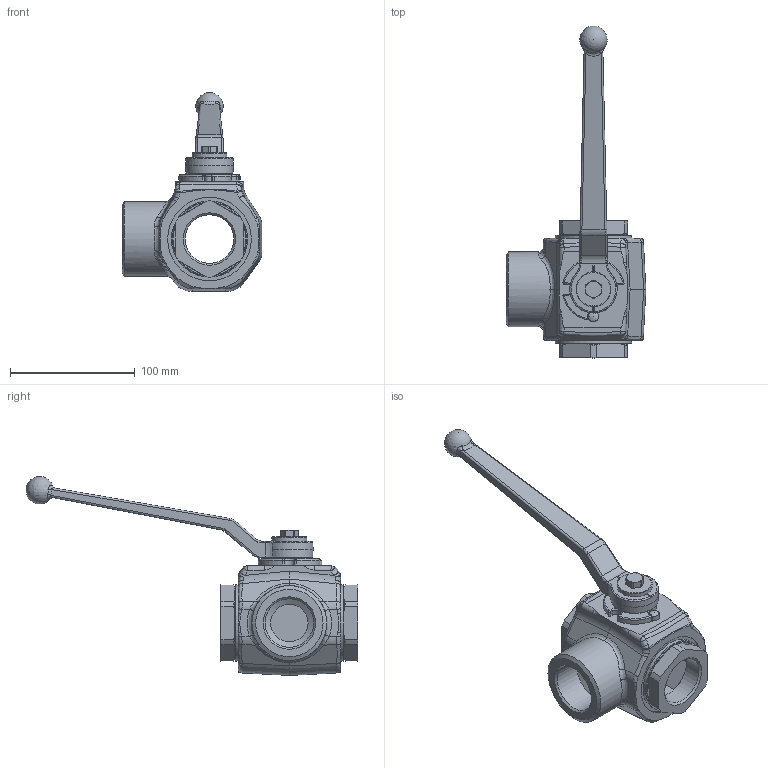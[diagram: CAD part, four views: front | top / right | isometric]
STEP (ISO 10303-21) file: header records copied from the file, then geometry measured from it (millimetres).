
FILE_DESCRIPTION( ( 'Unknown' ), '1' );
FILE_NAME( 'H:/PISTER/3D-MODELLE/SK3 stp/SK3 DN32 G5_4.stp', 'Unknown', ( 'Unknown' ), ( 'Unknown' ), 'PSStep 14.0', 'Unknown', ' ' );
FILE_SCHEMA( ( 'AUTOMOTIVE_DESIGN { 1 0 10303 214 1 1 1 1 }' ) );
Length unit declared in the file: millimetre
Products named in the file (10): Assem1; 56-032-048-oa9; 58-28740-01; 58-0440-003; 58-0933-163; 09-17-001; 04-032-124-oa10; 04-032-124-oa11; Griff_SW17_; 01-032-100-oa12
Assembly tree (9 placements, depth 2):
  Assem1
    56-032-048-oa9
    58-28740-01
    58-0440-003
    58-0933-163
    09-17-001
    04-032-124-oa10
    04-032-124-oa11
    Griff_SW17_
    01-032-100-oa12
Bounding box: 112 x 265.82 x 159.4 mm (x, y, z)
Volume: 284014.3 mm3; surface area: 102437.6 mm2
Topology: 9 solids, 9 shells, 471 faces, 1203 edges, 740 vertices
Faces by surface type: plane 145, cylinder 128, bspline 110, cone 40, torus 37, sphere 11
Full cylindrical faces by diameter (mm): 6.8 x1, 7.98 x1, 8 x1, 9.2 x1, 24 x2, 28 x1, 30 x1, 32 x1, 38.95 x3, 56.3 x2, 56.35 x2, 60 x1, 61 x2, 67 x2, 69 x2
Entity records: 23915 total; most frequent: CARTESIAN_POINT 9727, ORIENTED_EDGE 2216, DIRECTION 1996, EDGE_CURVE 1108, AXIS2_PLACEMENT_3D 817, VERTEX_POINT 713, EDGE_LOOP 546, FACE_OUTER_BOUND 505
